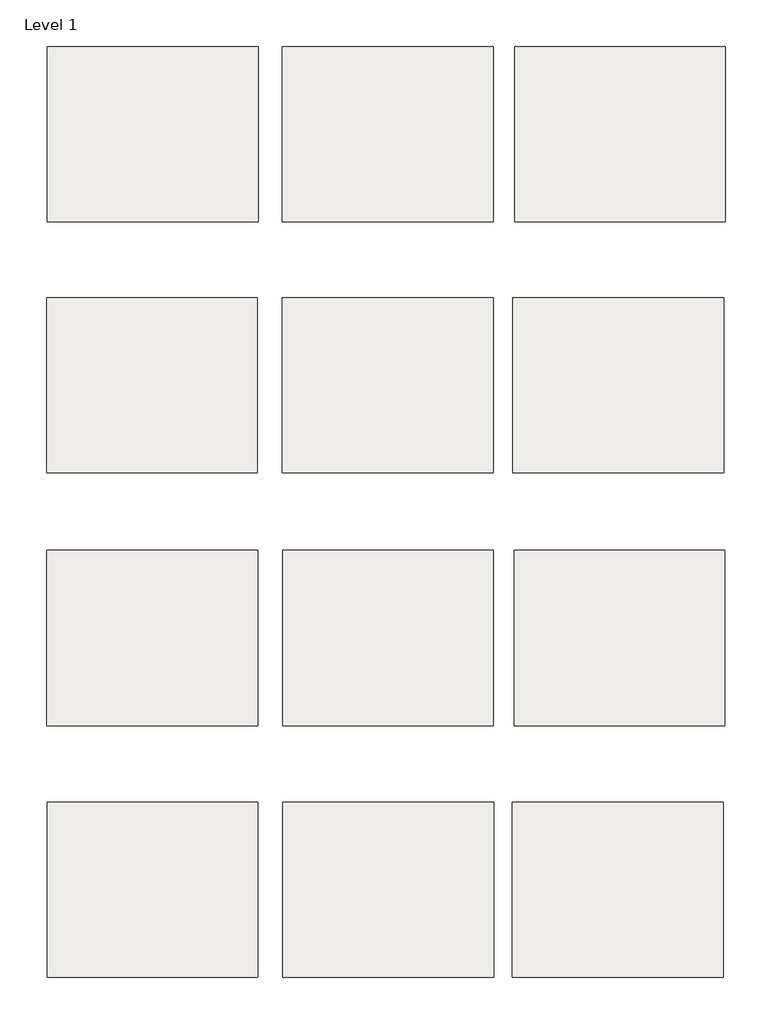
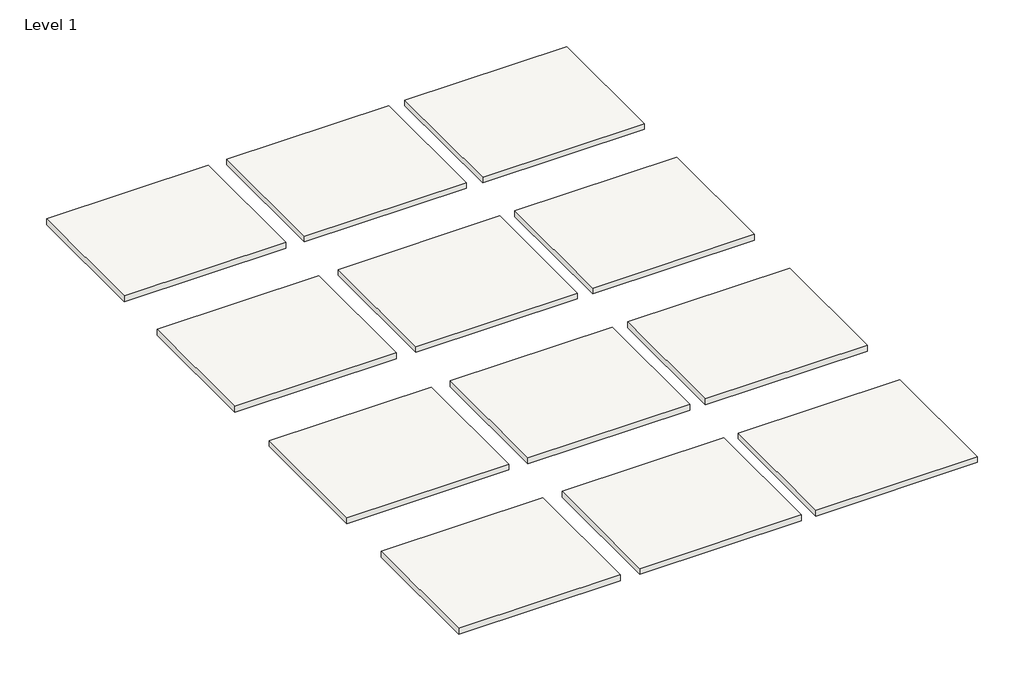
# One storey: 12 slabs.
"""IFC4 building model written with IfcOpenShell, lengths in millimetres."""

from ifc_helpers import new_model, si_unit, frame, origin, place, context, project, spatial, polyline, outline, extrude, element, save

model = new_model("IFC4")

# Units and contexts
model_context = context("Model", 3, world=origin())
ifc_project = project(units=[si_unit("LENGTHUNIT", "METRE", prefix="MILLI")], contexts=[model_context])

# Site, building, storey
site = spatial("IfcSite", under=ifc_project)
building = spatial("IfcBuilding", under=site)
storey = spatial("IfcBuildingStorey", under=building, Name="Level 1", Elevation=0.0)

# Slabs
placement = place(None, origin())
element("IfcSlab", 1, ObjectType="Edgewood Indoor ST - Easy Roll - 9/16\" Thick Black", at=placement, inside=storey, context=model_context, shape_type="SweptSolid", body=[
    extrude(outline(polyline([(-5423.6131924, 5217.0353292), (-5423.6131924, 4905.8853292), (-5798.2631924, 4905.8853292), (-5798.2631924, 5217.0353292), (-5423.6131924, 5217.0353292)])), frame((0.0, 0.0, -14.2875), z_axis=(0.0, 0.0, 1.0), x_axis=(1.0, 0.0, 0.0)), (0.0, 0.0, 1.0), 14.2875),
])
element("IfcSlab", 2, ObjectType="Edgewood Indoor ST - Easy Roll - 9/16\" Thick Blue", at=placement, inside=storey, context=model_context, shape_type="SweptSolid", body=[
    extrude(outline(polyline([(-5006.1006924, 5217.0353292), (-5006.1006924, 4905.8853292), (-5380.7506924, 4905.8853292), (-5380.7506924, 5217.0353292), (-5006.1006924, 5217.0353292)])), frame((0.0, 0.0, -14.2875), z_axis=(0.0, 0.0, 1.0), x_axis=(1.0, 0.0, 0.0)), (0.0, 0.0, 1.0), 14.2875),
])
element("IfcSlab", 3, ObjectType="Edgewood Indoor ST - Easy Roll - 9/16\" Thick Clay", at=placement, inside=storey, context=model_context, shape_type="SweptSolid", body=[
    extrude(outline(polyline([(-4593.3506924, 5217.0353292), (-4593.3506924, 4905.8853292), (-4968.0006924, 4905.8853292), (-4968.0006924, 5217.0353292), (-4593.3506924, 5217.0353292)])), frame((0.0, 0.0, -14.2875), z_axis=(0.0, 0.0, 1.0), x_axis=(1.0, 0.0, 0.0)), (0.0, 0.0, 1.0), 14.2875),
])
element("IfcSlab", 4, ObjectType="Edgewood Indoor ST - Easy Roll - 9/16\" Thick Dark Blue", at=placement, inside=storey, context=model_context, shape_type="SweptSolid", body=[
    extrude(outline(polyline([(-5424.8432931, 4770.9362481), (-5424.8432931, 4459.7862481), (-5799.4932931, 4459.7862481), (-5799.4932931, 4770.9362481), (-5424.8432931, 4770.9362481)])), frame((0.0, 0.0, -14.2875), z_axis=(0.0, 0.0, 1.0), x_axis=(1.0, 0.0, 0.0)), (0.0, 0.0, 1.0), 14.2875),
])
element("IfcSlab", 5, ObjectType="Edgewood Indoor ST - Easy Roll - 9/16\" Thick Green", at=placement, inside=storey, context=model_context, shape_type="SweptSolid", body=[
    extrude(outline(polyline([(-5005.7432931, 4770.9362481), (-5005.7432931, 4459.7862481), (-5380.3932931, 4459.7862481), (-5380.3932931, 4770.9362481), (-5005.7432931, 4770.9362481)])), frame((0.0, 0.0, -14.2875), z_axis=(0.0, 0.0, 1.0), x_axis=(1.0, 0.0, 0.0)), (0.0, 0.0, 1.0), 14.2875),
])
element("IfcSlab", 6, ObjectType="Edgewood Indoor ST - Easy Roll - 9/16\" Thick Grey", at=placement, inside=storey, context=model_context, shape_type="SweptSolid", body=[
    extrude(outline(polyline([(-4596.1682931, 4770.9362481), (-4596.1682931, 4459.7862481), (-4970.8182931, 4459.7862481), (-4970.8182931, 4770.9362481), (-4596.1682931, 4770.9362481)])), frame((0.0, 0.0, -14.2875), z_axis=(0.0, 0.0, 1.0), x_axis=(1.0, 0.0, 0.0)), (0.0, 0.0, 1.0), 14.2875),
])
element("IfcSlab", 7, ObjectType="Edgewood Indoor ST - Easy Roll - 9/16\" Thick Light Blue", at=placement, inside=storey, context=model_context, shape_type="SweptSolid", body=[
    extrude(outline(polyline([(-5424.4858939, 4321.662167), (-5424.4858939, 4010.512167), (-5799.1358939, 4010.512167), (-5799.1358939, 4321.662167), (-5424.4858939, 4321.662167)])), frame((0.0, 0.0, -14.2875), z_axis=(0.0, 0.0, 1.0), x_axis=(1.0, 0.0, 0.0)), (0.0, 0.0, 1.0), 14.2875),
])
element("IfcSlab", 8, ObjectType="Edgewood Indoor ST - Easy Roll - 9/16\" Thick Orange", at=placement, inside=storey, context=model_context, shape_type="SweptSolid", body=[
    extrude(outline(polyline([(-5005.3858939, 4321.662167), (-5005.3858939, 4010.512167), (-5380.0358939, 4010.512167), (-5380.0358939, 4321.662167), (-5005.3858939, 4321.662167)])), frame((0.0, 0.0, -14.2875), z_axis=(0.0, 0.0, 1.0), x_axis=(1.0, 0.0, 0.0)), (0.0, 0.0, 1.0), 14.2875),
])
element("IfcSlab", 9, ObjectType="Edgewood Indoor ST - Easy Roll - 9/16\" Thick Purple", at=placement, inside=storey, context=model_context, shape_type="SweptSolid", body=[
    extrude(outline(polyline([(-4594.2233939, 4321.662167), (-4594.2233939, 4010.512167), (-4968.8733939, 4010.512167), (-4968.8733939, 4321.662167), (-4594.2233939, 4321.662167)])), frame((0.0, 0.0, -14.2875), z_axis=(0.0, 0.0, 1.0), x_axis=(1.0, 0.0, 0.0)), (0.0, 0.0, 1.0), 14.2875),
])
element("IfcSlab", 10, ObjectType="Edgewood Indoor ST - Easy Roll - 9/16\" Thick Red", at=placement, inside=storey, context=model_context, shape_type="SweptSolid", body=[
    extrude(outline(polyline([(-5424.0175417, 3874.1027923), (-5424.0175417, 3562.9527923), (-5798.6675417, 3562.9527923), (-5798.6675417, 3874.1027923), (-5424.0175417, 3874.1027923)])), frame((0.0, 0.0, -14.2875), z_axis=(0.0, 0.0, 1.0), x_axis=(1.0, 0.0, 0.0)), (0.0, 0.0, 1.0), 14.2875),
])
element("IfcSlab", 11, ObjectType="Edgewood Indoor ST - Easy Roll - 9/16\" Thick White", at=placement, inside=storey, context=model_context, shape_type="SweptSolid", body=[
    extrude(outline(polyline([(-5004.9175417, 3874.1027923), (-5004.9175417, 3562.9527923), (-5379.5675417, 3562.9527923), (-5379.5675417, 3874.1027923), (-5004.9175417, 3874.1027923)])), frame((0.0, 0.0, -14.2875), z_axis=(0.0, 0.0, 1.0), x_axis=(1.0, 0.0, 0.0)), (0.0, 0.0, 1.0), 14.2875),
])
element("IfcSlab", 12, ObjectType="Edgewood Indoor ST - Easy Roll - 9/16\" Thick Yellow", at=placement, inside=storey, context=model_context, shape_type="SweptSolid", body=[
    extrude(outline(polyline([(-4596.9300417, 3874.1027923), (-4596.9300417, 3562.9527923), (-4971.5800417, 3562.9527923), (-4971.5800417, 3874.1027923), (-4596.9300417, 3874.1027923)])), frame((0.0, 0.0, -14.2875), z_axis=(0.0, 0.0, 1.0), x_axis=(1.0, 0.0, 0.0)), (0.0, 0.0, 1.0), 14.2875),
])

save(model, "model.ifc")
